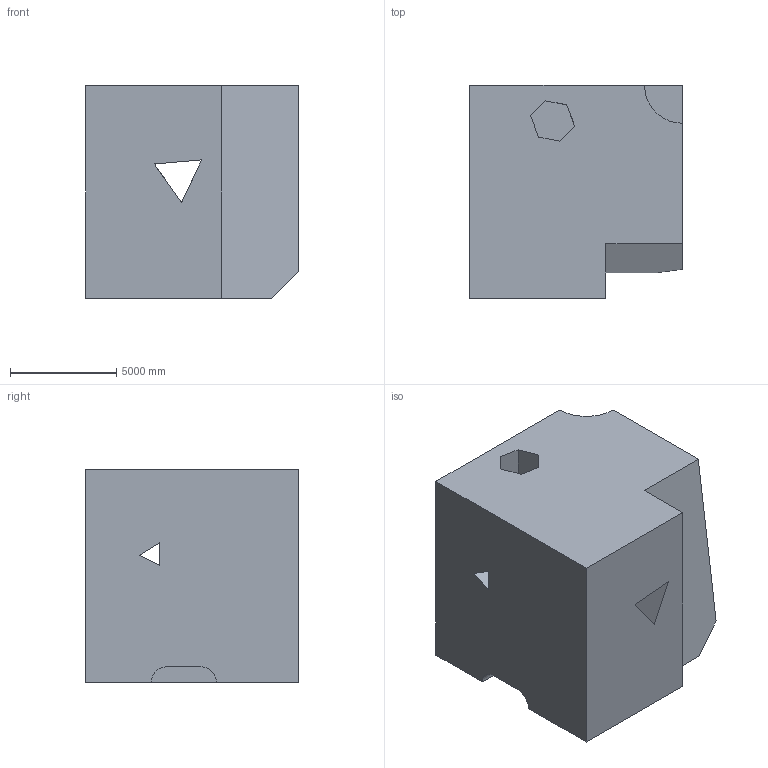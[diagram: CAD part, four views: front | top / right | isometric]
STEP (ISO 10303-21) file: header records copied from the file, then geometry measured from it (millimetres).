
FILE_DESCRIPTION (( 'STEP AP203' ), '1' );
FILE_NAME ('796.STEP', '2022-07-29T13:16:20', ( 'user' ), ( '' ), 'SwSTEP 2.0', 'SolidWorks 2021', '' );
FILE_SCHEMA (( 'CONFIG_CONTROL_DESIGN' ));
Length unit declared in the file: centimetre
Products named in the file (1): 796
Bounding box: 10000 x 10000 x 10000 mm (x, y, z)
Volume: 850058098965.4 mm3; surface area: 702980058.2 mm2
Topology: 1 solids, 1 shells, 33 faces, 96 edges, 64 vertices
Faces by surface type: plane 28, cylinder 5
Entity records: 1341 total; most frequent: CARTESIAN_POINT 367, ORIENTED_EDGE 192, DIRECTION 174, EDGE_CURVE 96, VECTOR 84, LINE 84, VERTEX_POINT 64, AXIS2_PLACEMENT_3D 45
